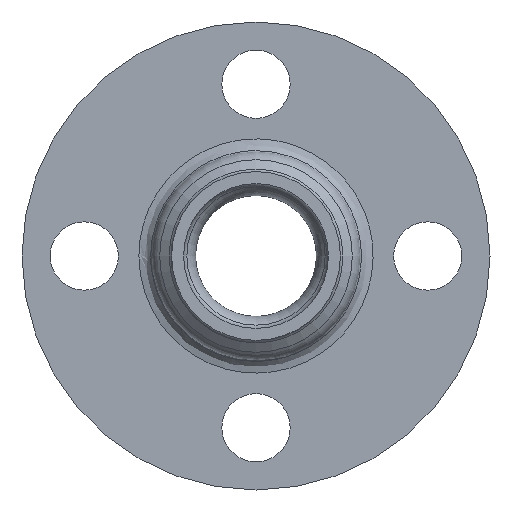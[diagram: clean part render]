
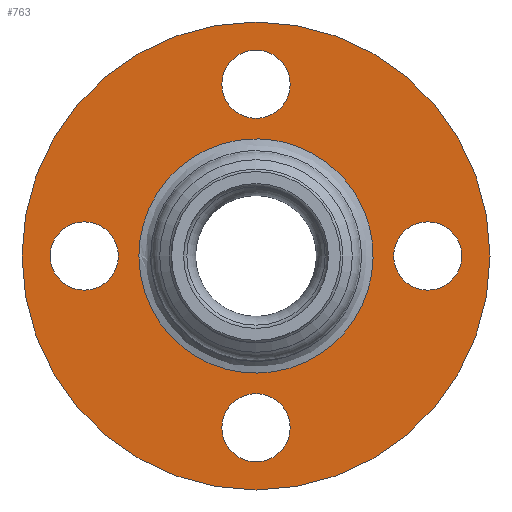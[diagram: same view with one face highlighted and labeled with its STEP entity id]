
A CAD part, left-side view. The second image highlights one B-rep face of the part: STEP entity #763.
In plain terms, the highlighted planar face has unit normal (-1, 0, 0).
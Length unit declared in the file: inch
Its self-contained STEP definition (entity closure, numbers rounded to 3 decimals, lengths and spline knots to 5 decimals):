
#60=FACE_BOUND('',#121,.T.);
#61=FACE_BOUND('',#122,.T.);
#62=FACE_BOUND('',#123,.T.);
#63=FACE_BOUND('',#124,.T.);
#64=FACE_BOUND('',#125,.T.);
#73=PLANE('',#828);
#80=B_SPLINE_CURVE_WITH_KNOTS('',3,(#1431,#1432,#1433,#1434,#1435,#1436,
#1437,#1438,#1439,#1440,#1441,#1442,#1443,#1444,#1445,#1446,#1447,#1448,
#1449,#1450,#1451,#1452,#1453,#1454),.UNSPECIFIED.,.T.,.F.,(4,1,1,1,1,1,
1,1,1,1,1,1,1,1,1,1,1,1,1,1,1,4),(-8.43385,-7.22902,-6.02418,
-4.81935,-3.61451,-2.00806,-1.60645,
-1.20484,-0.80322,-0.20081,0.40161,
1.20484,2.00806,2.30927,2.81128,3.61451,
4.41773,6.02418,7.22902,7.37962,7.83144,
8.43385),.UNSPECIFIED.);
#87=FACE_OUTER_BOUND('',#120,.T.);
#120=EDGE_LOOP('',(#510,#511));
#121=EDGE_LOOP('',(#512));
#122=EDGE_LOOP('',(#513));
#123=EDGE_LOOP('',(#514));
#124=EDGE_LOOP('',(#515));
#125=EDGE_LOOP('',(#516));
#195=CIRCLE('',#814,0.31);
#198=CIRCLE('',#818,0.31);
#201=CIRCLE('',#822,0.31);
#204=CIRCLE('',#826,0.31);
#206=CIRCLE('',#829,2.125);
#207=CIRCLE('',#830,2.125);
#289=VERTEX_POINT('',#1252);
#292=VERTEX_POINT('',#1260);
#295=VERTEX_POINT('',#1268);
#298=VERTEX_POINT('',#1276);
#299=VERTEX_POINT('',#1399);
#302=VERTEX_POINT('',#1456);
#303=VERTEX_POINT('',#1457);
#375=EDGE_CURVE('',#289,#289,#195,.T.);
#379=EDGE_CURVE('',#292,#292,#198,.T.);
#383=EDGE_CURVE('',#295,#295,#201,.T.);
#387=EDGE_CURVE('',#298,#298,#204,.T.);
#391=EDGE_CURVE('',#299,#299,#80,.T.);
#392=EDGE_CURVE('',#302,#303,#206,.T.);
#393=EDGE_CURVE('',#303,#302,#207,.T.);
#510=ORIENTED_EDGE('',*,*,#392,.F.);
#511=ORIENTED_EDGE('',*,*,#393,.F.);
#512=ORIENTED_EDGE('',*,*,#375,.T.);
#513=ORIENTED_EDGE('',*,*,#379,.T.);
#514=ORIENTED_EDGE('',*,*,#383,.T.);
#515=ORIENTED_EDGE('',*,*,#387,.T.);
#516=ORIENTED_EDGE('',*,*,#391,.F.);
#763=ADVANCED_FACE('',(#87,#60,#61,#62,#63,#64),#73,.T.);
#814=AXIS2_PLACEMENT_3D('',#1254,#959,#960);
#818=AXIS2_PLACEMENT_3D('',#1262,#968,#969);
#822=AXIS2_PLACEMENT_3D('',#1270,#977,#978);
#826=AXIS2_PLACEMENT_3D('',#1278,#986,#987);
#828=AXIS2_PLACEMENT_3D('',#1455,#990,#991);
#829=AXIS2_PLACEMENT_3D('',#1458,#992,#993);
#830=AXIS2_PLACEMENT_3D('',#1459,#994,#995);
#959=DIRECTION('center_axis',(1.,0.,0.));
#960=DIRECTION('ref_axis',(0.,-1.,0.));
#968=DIRECTION('center_axis',(1.,0.,0.));
#969=DIRECTION('ref_axis',(0.,0.,1.));
#977=DIRECTION('center_axis',(1.,0.,0.));
#978=DIRECTION('ref_axis',(0.,1.,0.));
#986=DIRECTION('center_axis',(1.,0.,0.));
#987=DIRECTION('ref_axis',(0.,0.,-1.));
#990=DIRECTION('center_axis',(-1.,0.,0.));
#991=DIRECTION('ref_axis',(0.,0.,1.));
#992=DIRECTION('center_axis',(1.,0.,0.));
#993=DIRECTION('ref_axis',(0.,1.,0.));
#994=DIRECTION('center_axis',(1.,0.,0.));
#995=DIRECTION('ref_axis',(0.,1.,0.));
#1252=CARTESIAN_POINT('',(1.17,0.31,-1.56));
#1254=CARTESIAN_POINT('Origin',(1.17,0.,-1.56));
#1260=CARTESIAN_POINT('',(1.17,-1.56,-0.31));
#1262=CARTESIAN_POINT('Origin',(1.17,-1.56,0.));
#1268=CARTESIAN_POINT('',(1.17,-0.31,1.56));
#1270=CARTESIAN_POINT('Origin',(1.17,0.,1.56));
#1276=CARTESIAN_POINT('',(1.17,1.56,0.31));
#1278=CARTESIAN_POINT('Origin',(1.17,1.56,0.));
#1399=CARTESIAN_POINT('',(1.17,1.06331,0.00086));
#1431=CARTESIAN_POINT('Ctrl Pts',(1.17,1.06331,0.00086));
#1432=CARTESIAN_POINT('Ctrl Pts',(1.17,1.06344,-0.15763));
#1433=CARTESIAN_POINT('Ctrl Pts',(1.17,0.99125,-0.47658));
#1434=CARTESIAN_POINT('Ctrl Pts',(1.17,0.68617,-0.85927));
#1435=CARTESIAN_POINT('Ctrl Pts',(1.17,0.2454,-1.07186));
#1436=CARTESIAN_POINT('Ctrl Pts',(1.17,-0.29897,-1.07261));
#1437=CARTESIAN_POINT('Ctrl Pts',(1.17,-0.68316,-0.85142));
#1438=CARTESIAN_POINT('Ctrl Pts',(1.17,-0.88149,-0.60142));
#1439=CARTESIAN_POINT('Ctrl Pts',(1.17,-0.96181,-0.46281));
#1440=CARTESIAN_POINT('Ctrl Pts',(1.17,-1.02932,-0.29046));
#1441=CARTESIAN_POINT('Ctrl Pts',(1.17,-1.06948,-0.07953));
#1442=CARTESIAN_POINT('Ctrl Pts',(1.17,-1.05905,0.18581));
#1443=CARTESIAN_POINT('Ctrl Pts',(1.17,-0.97374,0.466));
#1444=CARTESIAN_POINT('Ctrl Pts',(1.17,-0.82968,0.67772));
#1445=CARTESIAN_POINT('Ctrl Pts',(1.17,-0.67753,0.82471));
#1446=CARTESIAN_POINT('Ctrl Pts',(1.17,-0.50349,0.94885));
#1447=CARTESIAN_POINT('Ctrl Pts',(1.17,-0.24195,1.05155));
#1448=CARTESIAN_POINT('Ctrl Pts',(1.17,0.18646,1.08532));
#1449=CARTESIAN_POINT('Ctrl Pts',(1.17,0.65071,0.90388));
#1450=CARTESIAN_POINT('Ctrl Pts',(1.17,0.90113,0.58943));
#1451=CARTESIAN_POINT('Ctrl Pts',(1.17,0.99877,0.37176));
#1452=CARTESIAN_POINT('Ctrl Pts',(1.17,1.04723,0.22052));
#1453=CARTESIAN_POINT('Ctrl Pts',(1.17,1.06324,0.08011));
#1454=CARTESIAN_POINT('Ctrl Pts',(1.17,1.06331,0.00086));
#1455=CARTESIAN_POINT('Origin',(1.17,1.5475,0.));
#1456=CARTESIAN_POINT('',(1.17,2.125,0.));
#1457=CARTESIAN_POINT('',(1.17,-2.125,0.));
#1458=CARTESIAN_POINT('Origin',(1.17,0.,0.));
#1459=CARTESIAN_POINT('Origin',(1.17,0.,0.));
